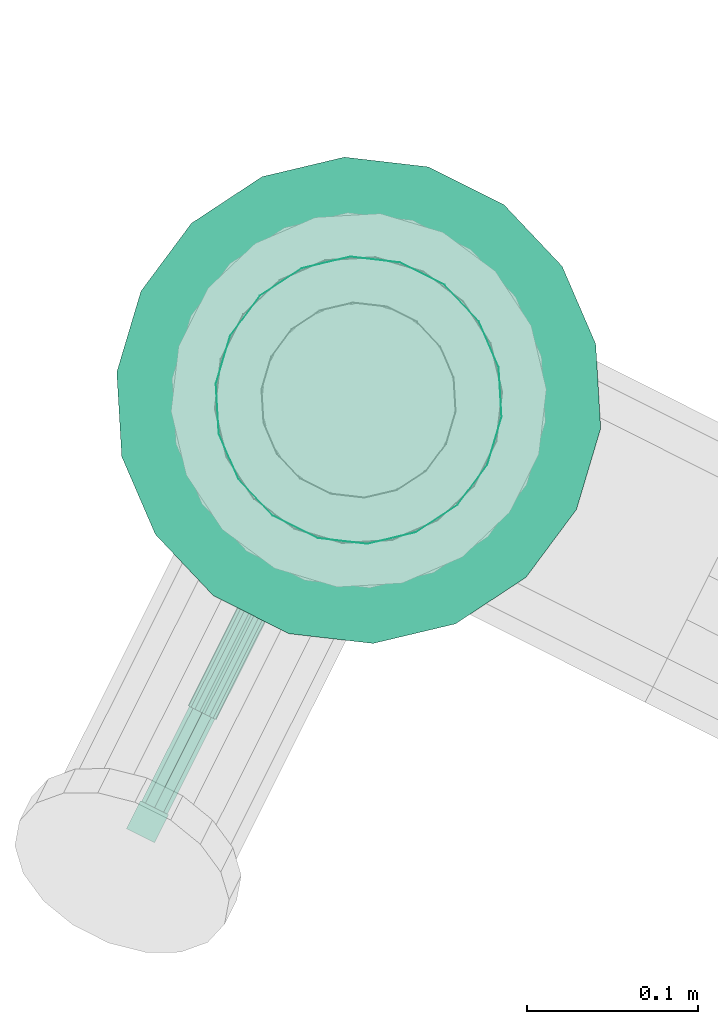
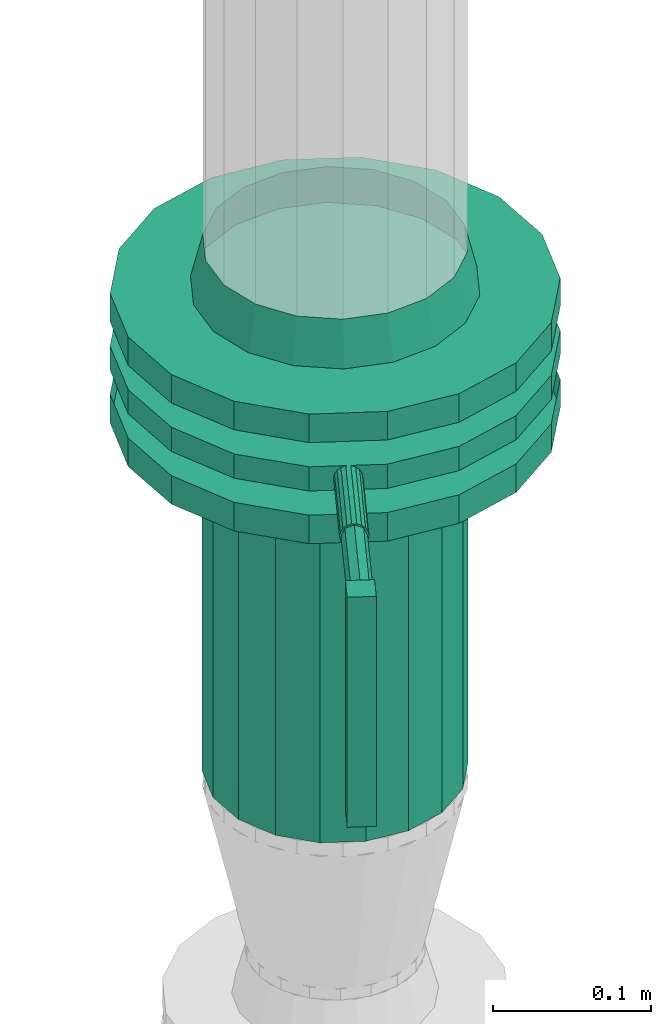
# One storey, part 67 of 152: 2 flow fittings, 1 flow controller, 1 flow segment.
"""IFC2X3 building model written with IfcOpenShell, lengths in metres."""

from ifc_helpers import new_model, si_unit, derived_unit, direction, frame, origin, place, context, subcontext, project, spatial, face_set, surface_model, source, transform, mapped, material, type_object, type_shapes, element, save


model = new_model("IFC2X3")

# Units and contexts
model_context = context("Model", 3, precision=5.2338327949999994e-05, world=origin(), true_north=direction((0.0, 1.0)))
body_context = subcontext(model_context, "Body", "Model", "MODEL_VIEW")
ifc_project = project(units=[si_unit("LENGTHUNIT", "METRE"), si_unit("AREAUNIT", "SQUARE_METRE"), si_unit("VOLUMEUNIT", "CUBIC_METRE"), si_unit("MASSUNIT", "GRAM", prefix="KILO"), si_unit("PLANEANGLEUNIT", "RADIAN"), derived_unit("THERMALTRANSMITTANCEUNIT", [(si_unit("MASSUNIT", "GRAM", prefix="KILO"), 1), (si_unit("THERMODYNAMICTEMPERATUREUNIT", "KELVIN"), -1), (si_unit("TIMEUNIT", "SECOND"), -3)])], contexts=[model_context])

# Site, building, storey
site_placement = place(None, frame((0.0, 0.0, 0.0), z_axis=(0.0, 0.0, 1.0), x_axis=(0.8939966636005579, -0.4480736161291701, 0.0)))
site = spatial("IfcSite", under=ifc_project, at=site_placement, Name="Default", CompositionType="ELEMENT")
building_placement = place(site_placement, origin())
building = spatial("IfcBuilding", under=site, at=building_placement, CompositionType="ELEMENT")
storey_placement = place(building_placement, frame((0.0, 0.0, 2.7499999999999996)))
storey = spatial("IfcBuildingStorey", under=building, at=storey_placement, Name="1. Obergeschoss", CompositionType="ELEMENT", Elevation=2.7499999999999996)

# Flow controller
ifc_material = material(Name="IfcSurfaceStyle #1741")
distribution_element_type_1 = type_object("IfcDistributionElementType", Name="Zwischenflanschklappe 315135:Zwischenflanschklappe 315135", material=ifc_material)
shared_shape_1 = source(origin(), body_context, "Body", "SurfaceModel", [
    surface_model("IfcFaceBasedSurfaceModel", [(20.360180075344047, 8.184683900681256, 4.2088834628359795), (20.360180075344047, 8.184683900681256, 4.38638346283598), (20.341780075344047, 8.184683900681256, 4.38638346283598), (20.341780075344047, 8.184683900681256, 4.2088834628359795), (20.341780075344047, 8.166283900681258, 4.386383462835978), (20.341780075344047, 8.166283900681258, 4.2088834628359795), (20.360180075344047, 8.166283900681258, 4.386383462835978), (20.360180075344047, 8.166283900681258, 4.2088834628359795), (20.25898007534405, 8.451283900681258, 4.349183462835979), (20.26452835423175, 8.419818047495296, 4.349183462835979), (20.26452835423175, 8.419818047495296, 4.367850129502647), (20.25898007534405, 8.451283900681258, 4.367850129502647), (20.280503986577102, 8.392147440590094, 4.349183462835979), (20.280503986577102, 8.392147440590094, 4.367850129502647), (20.30498007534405, 8.371609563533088, 4.349183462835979), (20.30498007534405, 8.371609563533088, 4.367850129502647), (20.335004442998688, 8.360681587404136, 4.349183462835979), (20.335004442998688, 8.360681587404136, 4.367850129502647), (20.366955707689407, 8.360681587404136, 4.349183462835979), (20.366955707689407, 8.360681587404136, 4.367850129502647), (20.39698007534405, 8.37160956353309, 4.349183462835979), (20.39698007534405, 8.37160956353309, 4.367850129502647), (20.421456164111, 8.392147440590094, 4.349183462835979), (20.421456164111, 8.392147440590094, 4.367850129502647), (20.43743179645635, 8.419818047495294, 4.349183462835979), (20.43743179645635, 8.419818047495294, 4.367850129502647), (20.442980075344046, 8.451283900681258, 4.349183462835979), (20.442980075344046, 8.451283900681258, 4.367850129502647), (20.43743179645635, 8.48274975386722, 4.349183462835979), (20.43743179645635, 8.48274975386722, 4.367850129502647), (20.421456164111, 8.510420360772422, 4.349183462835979), (20.421456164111, 8.510420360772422, 4.367850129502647), (20.39698007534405, 8.530958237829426, 4.349183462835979), (20.39698007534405, 8.530958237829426, 4.367850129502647), (20.366955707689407, 8.54188621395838, 4.349183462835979), (20.366955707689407, 8.54188621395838, 4.367850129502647), (20.335004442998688, 8.54188621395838, 4.349183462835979), (20.335004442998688, 8.54188621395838, 4.367850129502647), (20.30498007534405, 8.530958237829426, 4.349183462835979), (20.30498007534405, 8.530958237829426, 4.367850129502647), (20.280503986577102, 8.510420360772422, 4.349183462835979), (20.280503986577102, 8.510420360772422, 4.367850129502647), (20.26452835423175, 8.482749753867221, 4.349183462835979), (20.26452835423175, 8.482749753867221, 4.367850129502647), (20.35098007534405, 8.451283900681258, 4.349183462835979), (20.35098007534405, 8.451283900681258, 4.367850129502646), (20.208480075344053, 8.451283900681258, 4.367850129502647), (20.21707387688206, 8.40254603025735, 4.367850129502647), (20.21707387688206, 8.40254603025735, 4.386516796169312), (20.208480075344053, 8.451283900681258, 4.386516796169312), (20.241818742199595, 8.359686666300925, 4.367850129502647), (20.241818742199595, 8.359686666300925, 4.386516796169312), (20.279730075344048, 8.327875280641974, 4.367850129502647), (20.279730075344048, 8.327875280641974, 4.386516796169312), (20.32623521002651, 8.310948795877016, 4.367850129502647), (20.32623521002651, 8.310948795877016, 4.386516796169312), (20.375724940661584, 8.310948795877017, 4.367850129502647), (20.375724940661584, 8.310948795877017, 4.386516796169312), (20.422230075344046, 8.327875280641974, 4.367850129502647), (20.422230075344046, 8.327875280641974, 4.386516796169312), (20.4601414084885, 8.359686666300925, 4.367850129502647), (20.4601414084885, 8.359686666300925, 4.386516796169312), (20.48488627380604, 8.402546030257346, 4.367850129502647), (20.48488627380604, 8.402546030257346, 4.386516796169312), (20.49348007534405, 8.451283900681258, 4.367850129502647), (20.49348007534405, 8.451283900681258, 4.386516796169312), (20.48488627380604, 8.500021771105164, 4.367850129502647), (20.48488627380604, 8.500021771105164, 4.386516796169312), (20.4601414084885, 8.542881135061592, 4.367850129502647), (20.4601414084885, 8.542881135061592, 4.386516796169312), (20.422230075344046, 8.574692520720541, 4.367850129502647), (20.422230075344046, 8.574692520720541, 4.386516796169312), (20.375724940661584, 8.591619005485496, 4.367850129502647), (20.375724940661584, 8.591619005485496, 4.386516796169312), (20.32623521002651, 8.591619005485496, 4.367850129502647), (20.32623521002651, 8.591619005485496, 4.386516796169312), (20.279730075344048, 8.574692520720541, 4.367850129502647), (20.279730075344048, 8.574692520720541, 4.386516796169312), (20.241818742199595, 8.54288113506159, 4.367850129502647), (20.241818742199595, 8.54288113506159, 4.386516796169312), (20.21707387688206, 8.500021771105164, 4.367850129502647), (20.21707387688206, 8.500021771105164, 4.386516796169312), (20.35098007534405, 8.451283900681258, 4.386516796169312), (20.25898007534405, 8.451283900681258, 4.386516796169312), (20.26452835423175, 8.419818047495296, 4.386516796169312), (20.26452835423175, 8.419818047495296, 4.4051834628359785), (20.25898007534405, 8.451283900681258, 4.4051834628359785), (20.280503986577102, 8.392147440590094, 4.386516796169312), (20.280503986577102, 8.392147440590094, 4.4051834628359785), (20.30498007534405, 8.371609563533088, 4.386516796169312), (20.30498007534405, 8.371609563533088, 4.4051834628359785), (20.335004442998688, 8.360681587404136, 4.386516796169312), (20.335004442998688, 8.360681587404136, 4.4051834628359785), (20.366955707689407, 8.360681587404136, 4.386516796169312), (20.366955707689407, 8.360681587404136, 4.4051834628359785), (20.39698007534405, 8.37160956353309, 4.386516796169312), (20.39698007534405, 8.37160956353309, 4.4051834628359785), (20.421456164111, 8.392147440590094, 4.386516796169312), (20.421456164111, 8.392147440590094, 4.4051834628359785), (20.43743179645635, 8.419818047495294, 4.386516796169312), (20.43743179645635, 8.419818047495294, 4.4051834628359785), (20.442980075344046, 8.451283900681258, 4.386516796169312), (20.442980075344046, 8.451283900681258, 4.4051834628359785), (20.43743179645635, 8.48274975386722, 4.386516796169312), (20.43743179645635, 8.48274975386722, 4.4051834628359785), (20.421456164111, 8.510420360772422, 4.386516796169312), (20.421456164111, 8.510420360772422, 4.4051834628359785), (20.39698007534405, 8.530958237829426, 4.386516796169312), (20.39698007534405, 8.530958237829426, 4.4051834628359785), (20.366955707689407, 8.54188621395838, 4.386516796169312), (20.366955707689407, 8.54188621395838, 4.4051834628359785), (20.335004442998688, 8.54188621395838, 4.386516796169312), (20.335004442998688, 8.54188621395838, 4.4051834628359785), (20.30498007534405, 8.530958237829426, 4.386516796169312), (20.30498007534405, 8.530958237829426, 4.4051834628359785), (20.280503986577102, 8.510420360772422, 4.386516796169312), (20.280503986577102, 8.510420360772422, 4.4051834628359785), (20.26452835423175, 8.482749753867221, 4.386516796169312), (20.26452835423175, 8.482749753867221, 4.4051834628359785), (20.35098007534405, 8.451283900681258, 4.4051834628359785), (20.34164674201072, 8.451283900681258, 4.377183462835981), (20.342209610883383, 8.451283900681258, 4.373991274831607), (20.342209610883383, 8.246733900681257, 4.373991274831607), (20.34164674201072, 8.246733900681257, 4.377183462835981), (20.343830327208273, 8.451283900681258, 4.371184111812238), (20.343830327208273, 8.246733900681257, 4.371184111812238), (20.346313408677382, 8.451283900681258, 4.369100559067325), (20.346313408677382, 8.246733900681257, 4.369100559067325), (20.34935935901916, 8.451283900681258, 4.367991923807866), (20.34935935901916, 8.246733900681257, 4.367991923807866), (20.35260079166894, 8.451283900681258, 4.367991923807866), (20.35260079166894, 8.246733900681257, 4.367991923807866), (20.35564674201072, 8.451283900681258, 4.369100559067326), (20.35564674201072, 8.246733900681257, 4.369100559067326), (20.35812982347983, 8.451283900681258, 4.371184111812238), (20.35812982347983, 8.246733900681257, 4.371184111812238), (20.35975053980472, 8.451283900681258, 4.373991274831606), (20.35975053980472, 8.246733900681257, 4.373991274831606), (20.36031340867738, 8.451283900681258, 4.377183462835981), (20.36031340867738, 8.246733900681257, 4.377183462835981), (20.35975053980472, 8.451283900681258, 4.38037565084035), (20.35975053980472, 8.246733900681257, 4.38037565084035), (20.35812982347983, 8.451283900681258, 4.383182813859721), (20.35812982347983, 8.246733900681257, 4.383182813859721), (20.35564674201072, 8.451283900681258, 4.385266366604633), (20.35564674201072, 8.246733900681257, 4.385266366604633), (20.35260079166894, 8.451283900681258, 4.386375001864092), (20.35260079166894, 8.246733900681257, 4.386375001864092), (20.34935935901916, 8.451283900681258, 4.386375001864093), (20.34935935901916, 8.246733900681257, 4.386375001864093), (20.346313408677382, 8.451283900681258, 4.3852663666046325), (20.346313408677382, 8.246733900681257, 4.3852663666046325), (20.343830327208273, 8.451283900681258, 4.383182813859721), (20.343830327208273, 8.246733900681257, 4.383182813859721), (20.342209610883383, 8.451283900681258, 4.380375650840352), (20.342209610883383, 8.246733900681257, 4.380375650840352), (20.35098007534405, 8.451283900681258, 4.377183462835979), (20.35098007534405, 8.246733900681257, 4.377183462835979), (20.34256507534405, 8.246733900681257, 4.377183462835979), (20.345029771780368, 8.246733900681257, 4.371233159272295), (20.345029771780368, 8.184683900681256, 4.371233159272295), (20.34256507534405, 8.184683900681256, 4.377183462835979), (20.35098007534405, 8.246733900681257, 4.36876846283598), (20.35098007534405, 8.184683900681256, 4.36876846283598), (20.356930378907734, 8.246733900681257, 4.371233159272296), (20.356930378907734, 8.184683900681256, 4.371233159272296), (20.35939507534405, 8.246733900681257, 4.377183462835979), (20.35939507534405, 8.184683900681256, 4.377183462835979), (20.356930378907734, 8.246733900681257, 4.383133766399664), (20.356930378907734, 8.184683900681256, 4.383133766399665), (20.35098007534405, 8.246733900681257, 4.385598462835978), (20.35098007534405, 8.184683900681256, 4.385598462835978), (20.345029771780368, 8.246733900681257, 4.383133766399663), (20.345029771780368, 8.184683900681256, 4.383133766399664), (20.35098007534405, 8.184683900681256, 4.377183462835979)], [face_set([[[0, 1, 2, 3]], [[3, 2, 4, 5]], [[5, 4, 6, 7]], [[7, 6, 1, 0]], [[0, 3, 5, 7]], [[6, 4, 2, 1]], [[8, 9, 10, 11]], [[9, 12, 13, 10]], [[12, 14, 15, 13]], [[14, 16, 17, 15]], [[16, 18, 19, 17]], [[18, 20, 21, 19]], [[20, 22, 23, 21]], [[22, 24, 25, 23]], [[24, 26, 27, 25]], [[26, 28, 29, 27]], [[28, 30, 31, 29]], [[30, 32, 33, 31]], [[32, 34, 35, 33]], [[34, 36, 37, 35]], [[36, 38, 39, 37]], [[38, 40, 41, 39]], [[40, 42, 43, 41]], [[42, 8, 11, 43]], [[44, 9, 8]], [[44, 12, 9]], [[44, 14, 12]], [[44, 16, 14]], [[44, 18, 16]], [[44, 20, 18]], [[44, 22, 20]], [[44, 24, 22]], [[44, 26, 24]], [[44, 28, 26]], [[44, 30, 28]], [[44, 32, 30]], [[44, 34, 32]], [[44, 36, 34]], [[44, 38, 36]], [[44, 40, 38]], [[44, 42, 40]], [[44, 8, 42]], [[45, 43, 11]], [[45, 41, 43]], [[45, 39, 41]], [[45, 37, 39]], [[45, 35, 37]], [[45, 33, 35]], [[45, 31, 33]], [[45, 29, 31]], [[45, 27, 29]], [[45, 25, 27]], [[45, 23, 25]], [[45, 21, 23]], [[45, 19, 21]], [[45, 17, 19]], [[45, 15, 17]], [[45, 13, 15]], [[45, 10, 13]], [[45, 11, 10]], [[46, 47, 48, 49]], [[47, 50, 51, 48]], [[50, 52, 53, 51]], [[52, 54, 55, 53]], [[54, 56, 57, 55]], [[56, 58, 59, 57]], [[58, 60, 61, 59]], [[60, 62, 63, 61]], [[62, 64, 65, 63]], [[64, 66, 67, 65]], [[66, 68, 69, 67]], [[68, 70, 71, 69]], [[70, 72, 73, 71]], [[72, 74, 75, 73]], [[74, 76, 77, 75]], [[76, 78, 79, 77]], [[78, 80, 81, 79]], [[80, 46, 49, 81]], [[45, 47, 46]], [[45, 50, 47]], [[45, 52, 50]], [[45, 54, 52]], [[45, 56, 54]], [[45, 58, 56]], [[45, 60, 58]], [[45, 62, 60]], [[45, 64, 62]], [[45, 66, 64]], [[45, 68, 66]], [[45, 70, 68]], [[45, 72, 70]], [[45, 74, 72]], [[45, 76, 74]], [[45, 78, 76]], [[45, 80, 78]], [[45, 46, 80]], [[82, 81, 49]], [[82, 79, 81]], [[82, 77, 79]], [[82, 75, 77]], [[82, 73, 75]], [[82, 71, 73]], [[82, 69, 71]], [[82, 67, 69]], [[82, 65, 67]], [[82, 63, 65]], [[82, 61, 63]], [[82, 59, 61]], [[82, 57, 59]], [[82, 55, 57]], [[82, 53, 55]], [[82, 51, 53]], [[82, 48, 51]], [[82, 49, 48]], [[83, 84, 85, 86]], [[84, 87, 88, 85]], [[87, 89, 90, 88]], [[89, 91, 92, 90]], [[91, 93, 94, 92]], [[93, 95, 96, 94]], [[95, 97, 98, 96]], [[97, 99, 100, 98]], [[99, 101, 102, 100]], [[101, 103, 104, 102]], [[103, 105, 106, 104]], [[105, 107, 108, 106]], [[107, 109, 110, 108]], [[109, 111, 112, 110]], [[111, 113, 114, 112]], [[113, 115, 116, 114]], [[115, 117, 118, 116]], [[117, 83, 86, 118]], [[82, 84, 83]], [[82, 87, 84]], [[82, 89, 87]], [[82, 91, 89]], [[82, 93, 91]], [[82, 95, 93]], [[82, 97, 95]], [[82, 99, 97]], [[82, 101, 99]], [[82, 103, 101]], [[82, 105, 103]], [[82, 107, 105]], [[82, 109, 107]], [[82, 111, 109]], [[82, 113, 111]], [[82, 115, 113]], [[82, 117, 115]], [[82, 83, 117]], [[119, 118, 86]], [[119, 116, 118]], [[119, 114, 116]], [[119, 112, 114]], [[119, 110, 112]], [[119, 108, 110]], [[119, 106, 108]], [[119, 104, 106]], [[119, 102, 104]], [[119, 100, 102]], [[119, 98, 100]], [[119, 96, 98]], [[119, 94, 96]], [[119, 92, 94]], [[119, 90, 92]], [[119, 88, 90]], [[119, 85, 88]], [[119, 86, 85]], [[120, 121, 122, 123]], [[121, 124, 125, 122]], [[124, 126, 127, 125]], [[126, 128, 129, 127]], [[128, 130, 131, 129]], [[130, 132, 133, 131]], [[132, 134, 135, 133]], [[134, 136, 137, 135]], [[136, 138, 139, 137]], [[138, 140, 141, 139]], [[140, 142, 143, 141]], [[142, 144, 145, 143]], [[144, 146, 147, 145]], [[146, 148, 149, 147]], [[148, 150, 151, 149]], [[150, 152, 153, 151]], [[152, 154, 155, 153]], [[154, 120, 123, 155]], [[156, 121, 120]], [[156, 124, 121]], [[156, 126, 124]], [[156, 128, 126]], [[156, 130, 128]], [[156, 132, 130]], [[156, 134, 132]], [[156, 136, 134]], [[156, 138, 136]], [[156, 140, 138]], [[156, 142, 140]], [[156, 144, 142]], [[156, 146, 144]], [[156, 148, 146]], [[156, 150, 148]], [[156, 152, 150]], [[156, 154, 152]], [[156, 120, 154]], [[157, 155, 123]], [[157, 153, 155]], [[157, 151, 153]], [[157, 149, 151]], [[157, 147, 149]], [[157, 145, 147]], [[157, 143, 145]], [[157, 141, 143]], [[157, 139, 141]], [[157, 137, 139]], [[157, 135, 137]], [[157, 133, 135]], [[157, 131, 133]], [[157, 129, 131]], [[157, 127, 129]], [[157, 125, 127]], [[157, 122, 125]], [[157, 123, 122]], [[158, 159, 160, 161]], [[159, 162, 163, 160]], [[162, 164, 165, 163]], [[164, 166, 167, 165]], [[166, 168, 169, 167]], [[168, 170, 171, 169]], [[170, 172, 173, 171]], [[172, 158, 161, 173]], [[174, 173, 161]], [[174, 171, 173]], [[174, 169, 171]], [[174, 167, 169]], [[174, 165, 167]], [[174, 163, 165]], [[174, 160, 163]], [[174, 161, 160]]])]),
])
type_shapes(distribution_element_type_1, [shared_shape_1])
flow_controller_placement = place(storey_placement, frame((0.0, 0.0, -2.7499999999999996)))
element("IfcFlowController", 1, at=flow_controller_placement, inside=storey, type_object=distribution_element_type_1, material=ifc_material, Name="Zwischenflanschklappe", ObjectType="Zwischenflanschklappe", context=body_context, shape_type="MappedRepresentation", body=[
    mapped(shared_shape_1, transform((0.0, 0.0, 0.0), scale=1.0)),
])

# Flow fitting
distribution_element_type_2 = type_object("IfcDistributionElementType", Name="Flansch 316667:Flansch 316667", material=ifc_material)
shared_shape_2 = source(origin(), body_context, "Body", "SurfaceModel", [
    surface_model("IfcFaceBasedSurfaceModel", [(20.49348007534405, 8.451283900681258, 4.349183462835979), (20.48488627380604, 8.402546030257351, 4.349183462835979), (20.48488627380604, 8.402546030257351, 4.327183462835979), (20.49348007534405, 8.451283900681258, 4.327183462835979), (20.460141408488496, 8.359686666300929, 4.349183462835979), (20.460141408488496, 8.359686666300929, 4.327183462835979), (20.422230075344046, 8.327875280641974, 4.349183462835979), (20.422230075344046, 8.327875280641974, 4.327183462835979), (20.375724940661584, 8.310948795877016, 4.349183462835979), (20.375724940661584, 8.310948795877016, 4.327183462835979), (20.32623521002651, 8.310948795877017, 4.349183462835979), (20.32623521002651, 8.310948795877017, 4.327183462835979), (20.279730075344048, 8.327875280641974, 4.349183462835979), (20.279730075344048, 8.327875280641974, 4.327183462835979), (20.241818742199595, 8.359686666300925, 4.349183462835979), (20.241818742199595, 8.359686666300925, 4.327183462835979), (20.21707387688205, 8.402546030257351, 4.349183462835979), (20.21707387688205, 8.402546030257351, 4.327183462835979), (20.20848007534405, 8.451283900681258, 4.349183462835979), (20.20848007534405, 8.451283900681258, 4.327183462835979), (20.217073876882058, 8.500021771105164, 4.349183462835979), (20.217073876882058, 8.500021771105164, 4.327183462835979), (20.241818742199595, 8.542881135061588, 4.349183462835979), (20.241818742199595, 8.542881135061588, 4.327183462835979), (20.279730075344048, 8.574692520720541, 4.349183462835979), (20.279730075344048, 8.574692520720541, 4.327183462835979), (20.32623521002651, 8.5916190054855, 4.349183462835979), (20.32623521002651, 8.5916190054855, 4.327183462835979), (20.375724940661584, 8.591619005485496, 4.349183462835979), (20.375724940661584, 8.591619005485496, 4.327183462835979), (20.422230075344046, 8.574692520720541, 4.349183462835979), (20.422230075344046, 8.574692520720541, 4.327183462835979), (20.4601414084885, 8.54288113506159, 4.349183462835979), (20.4601414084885, 8.54288113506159, 4.327183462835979), (20.484886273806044, 8.500021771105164, 4.349183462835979), (20.484886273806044, 8.500021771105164, 4.327183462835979), (20.35098007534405, 8.451283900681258, 4.327183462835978), (20.350980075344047, 8.359283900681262, 4.327183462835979), (20.319514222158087, 8.364832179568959, 4.327183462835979), (20.32219908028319, 8.372208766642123, 4.29418346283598), (20.35098007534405, 8.367133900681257, 4.294183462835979), (20.291843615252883, 8.380807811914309, 4.327183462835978), (20.296889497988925, 8.386821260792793, 4.294183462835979), (20.271305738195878, 8.40528390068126, 4.327183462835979), (20.278104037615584, 8.409208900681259, 4.29418346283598), (20.260377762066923, 8.435308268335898, 4.327183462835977), (20.268108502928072, 8.436671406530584, 4.294183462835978), (20.26037776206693, 8.467259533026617, 4.32718346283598), (20.268108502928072, 8.465896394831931, 4.2941834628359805), (20.271305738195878, 8.497283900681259, 4.32718346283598), (20.278104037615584, 8.493358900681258, 4.2941834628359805), (20.291843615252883, 8.521759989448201, 4.327183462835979), (20.296889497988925, 8.515746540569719, 4.29418346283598), (20.319514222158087, 8.537735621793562, 4.327183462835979), (20.32219908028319, 8.530359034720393, 4.29418346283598), (20.350980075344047, 8.54328390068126, 4.327183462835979), (20.35098007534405, 8.535433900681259, 4.29418346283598), (20.382445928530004, 8.537735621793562, 4.327183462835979), (20.379761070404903, 8.530359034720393, 4.29418346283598), (20.41011653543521, 8.521759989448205, 4.327183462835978), (20.405070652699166, 8.515746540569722, 4.294183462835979), (20.430654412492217, 8.497283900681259, 4.327183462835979), (20.423856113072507, 8.493358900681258, 4.29418346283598), (20.441582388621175, 8.467259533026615, 4.327183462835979), (20.43385164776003, 8.465896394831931, 4.29418346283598), (20.44158238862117, 8.435308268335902, 4.327183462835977), (20.433851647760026, 8.436671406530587, 4.294183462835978), (20.430654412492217, 8.405283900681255, 4.327183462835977), (20.42385611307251, 8.409208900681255, 4.294183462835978), (20.41011653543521, 8.38080781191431, 4.327183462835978), (20.405070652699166, 8.386821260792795, 4.294183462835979), (20.382445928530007, 8.364832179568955, 4.327183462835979), (20.3797610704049, 8.372208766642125, 4.29418346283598)], [face_set([[[0, 1, 2, 3]], [[1, 4, 5, 2]], [[4, 6, 7, 5]], [[6, 8, 9, 7]], [[8, 10, 11, 9]], [[10, 12, 13, 11]], [[12, 14, 15, 13]], [[14, 16, 17, 15]], [[16, 18, 19, 17]], [[18, 20, 21, 19]], [[20, 22, 23, 21]], [[22, 24, 25, 23]], [[24, 26, 27, 25]], [[26, 28, 29, 27]], [[28, 30, 31, 29]], [[30, 32, 33, 31]], [[32, 34, 35, 33]], [[34, 0, 3, 35]], [[36, 35, 3]], [[36, 33, 35]], [[36, 31, 33]], [[36, 29, 31]], [[36, 27, 29]], [[36, 25, 27]], [[36, 23, 25]], [[36, 21, 23]], [[36, 19, 21]], [[36, 17, 19]], [[36, 15, 17]], [[36, 13, 15]], [[36, 11, 13]], [[36, 9, 11]], [[36, 7, 9]], [[36, 5, 7]], [[36, 2, 5]], [[36, 3, 2]], [[37, 38, 39, 40]], [[38, 41, 42, 39]], [[41, 43, 44, 42]], [[43, 45, 46, 44]], [[45, 47, 48, 46]], [[47, 49, 50, 48]], [[49, 51, 52, 50]], [[51, 53, 54, 52]], [[53, 55, 56, 54]], [[55, 57, 58, 56]], [[57, 59, 60, 58]], [[59, 61, 62, 60]], [[61, 63, 64, 62]], [[63, 65, 66, 64]], [[65, 67, 68, 66]], [[67, 69, 70, 68]], [[69, 71, 72, 70]], [[71, 37, 40, 72]]])]),
])
type_shapes(distribution_element_type_2, [shared_shape_2])
flow_fitting_1_placement = place(storey_placement, frame((0.0, 0.0, -2.7499999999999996)))
element("IfcFlowFitting", 2, at=flow_fitting_1_placement, inside=storey, type_object=distribution_element_type_2, material=ifc_material, Name="Flansch", ObjectType="Flansch", context=body_context, shape_type="MappedRepresentation", body=[
    mapped(shared_shape_2, transform((0.0, 0.0, 0.0), scale=1.0)),
])

# Flow segment
distribution_element_type_3 = type_object("IfcDistributionElementType", Name="Stahlrohr nach DIN 2448 316690:Stahlrohr nach DIN 2448 316690", material=ifc_material)
shared_shape_3 = source(origin(), body_context, "Body", "SurfaceModel", [
    surface_model("IfcFaceBasedSurfaceModel", [(20.266830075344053, 8.451283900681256, 4.29418346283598), (20.271904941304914, 8.480064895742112, 4.29418346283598), (20.271904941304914, 8.480064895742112, 4.055870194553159), (20.266830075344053, 8.451283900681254, 4.055870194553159), (20.28651743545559, 8.505374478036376, 4.29418346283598), (20.28651743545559, 8.505374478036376, 4.055870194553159), (20.308905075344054, 8.524159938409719, 4.29418346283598), (20.308905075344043, 8.524159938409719, 4.055870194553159), (20.33636758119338, 8.534155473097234, 4.29418346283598), (20.336367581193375, 8.534155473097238, 4.055870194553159), (20.36559256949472, 8.534155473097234, 4.29418346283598), (20.365592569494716, 8.53415547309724, 4.055870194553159), (20.39305507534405, 8.524159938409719, 4.29418346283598), (20.393055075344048, 8.524159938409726, 4.055870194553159), (20.415442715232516, 8.505374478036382, 4.29418346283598), (20.415442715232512, 8.505374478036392, 4.055870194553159), (20.43005520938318, 8.480064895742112, 4.29418346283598), (20.43005520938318, 8.480064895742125, 4.055870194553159), (20.435130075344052, 8.451283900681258, 4.294183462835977), (20.435130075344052, 8.45128390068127, 4.055870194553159), (20.430055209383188, 8.422502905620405, 4.29418346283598), (20.43005520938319, 8.422502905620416, 4.055870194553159), (20.415442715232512, 8.397193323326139, 4.29418346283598), (20.415442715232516, 8.39719332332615, 4.055870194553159), (20.393055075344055, 8.378407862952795, 4.29418346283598), (20.393055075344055, 8.378407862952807, 4.055870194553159), (20.365592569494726, 8.368412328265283, 4.29418346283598), (20.36559256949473, 8.36841232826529, 4.055870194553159), (20.33636758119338, 8.368412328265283, 4.29418346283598), (20.33636758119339, 8.368412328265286, 4.055870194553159), (20.308905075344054, 8.378407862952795, 4.29418346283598), (20.308905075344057, 8.378407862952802, 4.055870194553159), (20.28651743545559, 8.397193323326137, 4.29418346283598), (20.286517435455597, 8.397193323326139, 4.055870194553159), (20.271904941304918, 8.422502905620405, 4.29418346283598), (20.271904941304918, 8.422502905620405, 4.055870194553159)], [face_set([[[0, 1, 2, 3]], [[1, 4, 5, 2]], [[4, 6, 7, 5]], [[6, 8, 9, 7]], [[8, 10, 11, 9]], [[10, 12, 13, 11]], [[12, 14, 15, 13]], [[14, 16, 17, 15]], [[16, 18, 19, 17]], [[18, 20, 21, 19]], [[20, 22, 23, 21]], [[22, 24, 25, 23]], [[24, 26, 27, 25]], [[26, 28, 29, 27]], [[28, 30, 31, 29]], [[30, 32, 33, 31]], [[32, 34, 35, 33]], [[34, 0, 3, 35]]])]),
])
type_shapes(distribution_element_type_3, [shared_shape_3])
flow_segment_placement = place(storey_placement, frame((0.0, 0.0, -2.7499999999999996)))
element("IfcFlowSegment", 3, at=flow_segment_placement, inside=storey, type_object=distribution_element_type_3, material=ifc_material, Name="Stahlrohr nach DIN 2448", ObjectType="Stahlrohr nach DIN 2448", context=body_context, shape_type="MappedRepresentation", body=[
    mapped(shared_shape_3, transform((0.0, 0.0, 0.0), scale=1.0)),
])

# Flow fitting
distribution_element_type_4 = type_object("IfcDistributionElementType", Name="Flansch 316845:Flansch 316845", material=ifc_material)
shared_shape_4 = source(origin(), body_context, "Body", "SurfaceModel", [
    surface_model("IfcFaceBasedSurfaceModel", [(20.49348007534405, 8.451283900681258, 4.4051834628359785), (20.48488627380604, 8.500021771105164, 4.4051834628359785), (20.48488627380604, 8.500021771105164, 4.42718346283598), (20.49348007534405, 8.451283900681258, 4.42718346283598), (20.460141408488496, 8.542881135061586, 4.4051834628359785), (20.460141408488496, 8.542881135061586, 4.42718346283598), (20.422230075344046, 8.57469252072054, 4.4051834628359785), (20.422230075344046, 8.57469252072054, 4.42718346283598), (20.375724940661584, 8.5916190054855, 4.4051834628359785), (20.375724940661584, 8.5916190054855, 4.42718346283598), (20.32623521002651, 8.591619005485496, 4.4051834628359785), (20.32623521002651, 8.591619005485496, 4.42718346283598), (20.279730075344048, 8.574692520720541, 4.4051834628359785), (20.279730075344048, 8.574692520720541, 4.42718346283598), (20.241818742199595, 8.542881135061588, 4.4051834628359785), (20.241818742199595, 8.542881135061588, 4.42718346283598), (20.21707387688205, 8.500021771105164, 4.4051834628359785), (20.21707387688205, 8.500021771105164, 4.42718346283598), (20.208480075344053, 8.451283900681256, 4.4051834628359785), (20.208480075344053, 8.451283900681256, 4.42718346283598), (20.217073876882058, 8.40254603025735, 4.4051834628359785), (20.217073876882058, 8.40254603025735, 4.42718346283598), (20.241818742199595, 8.359686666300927, 4.4051834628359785), (20.241818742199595, 8.359686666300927, 4.42718346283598), (20.279730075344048, 8.327875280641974, 4.4051834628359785), (20.279730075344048, 8.327875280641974, 4.42718346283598), (20.32623521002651, 8.310948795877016, 4.4051834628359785), (20.32623521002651, 8.310948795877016, 4.42718346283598), (20.375724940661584, 8.310948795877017, 4.4051834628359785), (20.375724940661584, 8.310948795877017, 4.42718346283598), (20.422230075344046, 8.327875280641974, 4.4051834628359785), (20.422230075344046, 8.327875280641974, 4.42718346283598), (20.4601414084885, 8.359686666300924, 4.4051834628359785), (20.4601414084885, 8.359686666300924, 4.42718346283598), (20.484886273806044, 8.402546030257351, 4.4051834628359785), (20.484886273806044, 8.402546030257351, 4.42718346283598), (20.35098007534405, 8.451283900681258, 4.427183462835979), (20.350980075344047, 8.543283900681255, 4.42718346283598), (20.319514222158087, 8.537735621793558, 4.42718346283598), (20.32219908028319, 8.53035903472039, 4.460183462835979), (20.35098007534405, 8.535433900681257, 4.460183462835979), (20.291843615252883, 8.521759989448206, 4.42718346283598), (20.296889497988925, 8.51574654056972, 4.460183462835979), (20.271305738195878, 8.497283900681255, 4.42718346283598), (20.278104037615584, 8.493358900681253, 4.460183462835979), (20.260377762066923, 8.467259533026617, 4.4271834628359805), (20.268108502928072, 8.465896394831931, 4.460183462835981), (20.26037776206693, 8.435308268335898, 4.427183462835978), (20.268108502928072, 8.436671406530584, 4.460183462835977), (20.271305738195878, 8.405283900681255, 4.427183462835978), (20.278104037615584, 8.409208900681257, 4.460183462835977), (20.291843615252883, 8.38080781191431, 4.42718346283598), (20.296889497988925, 8.386821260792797, 4.460183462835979), (20.319514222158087, 8.364832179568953, 4.42718346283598), (20.32219908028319, 8.372208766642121, 4.460183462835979), (20.350980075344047, 8.359283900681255, 4.42718346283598), (20.35098007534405, 8.367133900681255, 4.460183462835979), (20.382445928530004, 8.364832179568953, 4.42718346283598), (20.379761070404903, 8.372208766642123, 4.460183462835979), (20.41011653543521, 8.380807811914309, 4.42718346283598), (20.405070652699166, 8.386821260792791, 4.460183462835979), (20.430654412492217, 8.405283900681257, 4.42718346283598), (20.423856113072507, 8.409208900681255, 4.460183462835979), (20.44158238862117, 8.435308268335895, 4.4271834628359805), (20.433851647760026, 8.43667140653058, 4.460183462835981), (20.44158238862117, 8.467259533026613, 4.4271834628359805), (20.433851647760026, 8.465896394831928, 4.460183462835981), (20.430654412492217, 8.497283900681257, 4.4271834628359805), (20.42385611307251, 8.493358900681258, 4.46018346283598), (20.41011653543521, 8.521759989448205, 4.42718346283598), (20.405070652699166, 8.51574654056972, 4.460183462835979), (20.382445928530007, 8.53773562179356, 4.42718346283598), (20.3797610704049, 8.530359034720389, 4.460183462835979)], [face_set([[[0, 1, 2, 3]], [[1, 4, 5, 2]], [[4, 6, 7, 5]], [[6, 8, 9, 7]], [[8, 10, 11, 9]], [[10, 12, 13, 11]], [[12, 14, 15, 13]], [[14, 16, 17, 15]], [[16, 18, 19, 17]], [[18, 20, 21, 19]], [[20, 22, 23, 21]], [[22, 24, 25, 23]], [[24, 26, 27, 25]], [[26, 28, 29, 27]], [[28, 30, 31, 29]], [[30, 32, 33, 31]], [[32, 34, 35, 33]], [[34, 0, 3, 35]], [[36, 35, 3]], [[36, 33, 35]], [[36, 31, 33]], [[36, 29, 31]], [[36, 27, 29]], [[36, 25, 27]], [[36, 23, 25]], [[36, 21, 23]], [[36, 19, 21]], [[36, 17, 19]], [[36, 15, 17]], [[36, 13, 15]], [[36, 11, 13]], [[36, 9, 11]], [[36, 7, 9]], [[36, 5, 7]], [[36, 2, 5]], [[36, 3, 2]], [[37, 38, 39, 40]], [[38, 41, 42, 39]], [[41, 43, 44, 42]], [[43, 45, 46, 44]], [[45, 47, 48, 46]], [[47, 49, 50, 48]], [[49, 51, 52, 50]], [[51, 53, 54, 52]], [[53, 55, 56, 54]], [[55, 57, 58, 56]], [[57, 59, 60, 58]], [[59, 61, 62, 60]], [[61, 63, 64, 62]], [[63, 65, 66, 64]], [[65, 67, 68, 66]], [[67, 69, 70, 68]], [[69, 71, 72, 70]], [[71, 37, 40, 72]]])]),
])
type_shapes(distribution_element_type_4, [shared_shape_4])
flow_fitting_2_placement = place(storey_placement, frame((0.0, 0.0, -2.7499999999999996)))
element("IfcFlowFitting", 4, at=flow_fitting_2_placement, inside=storey, type_object=distribution_element_type_4, material=ifc_material, Name="Flansch", ObjectType="Flansch", context=body_context, shape_type="MappedRepresentation", body=[
    mapped(shared_shape_4, transform((0.0, 0.0, 0.0), scale=1.0)),
])

save(model, "model.ifc")
